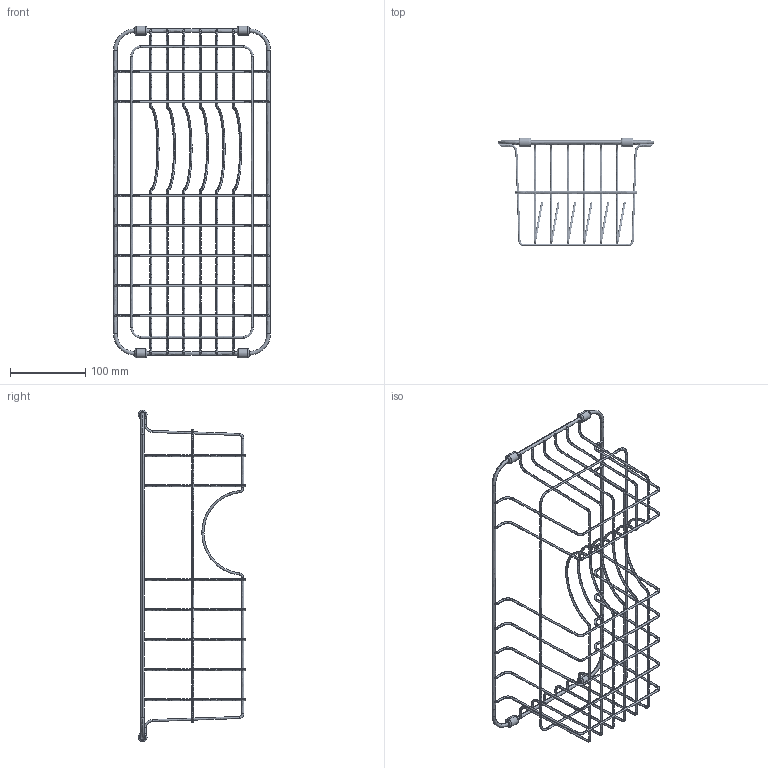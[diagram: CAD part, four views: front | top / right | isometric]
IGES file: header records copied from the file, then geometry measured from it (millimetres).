
Start section: SolidWorks IGES file using NURBS representation for surfaces
Global section: file name: D:\JÚLIO\#1# PRODUTOS\LAVA-LOUÇAS\Grelhas de lava-louças\4A33011 - Escorredor p l. louças valet 0,5 cuba\biblioteca 3D\4A33011_igs.IGS; native system: SolidWorks 2018; preprocessor: SolidWorks 2018; author: Julio; date: 180703.115419; units: millimetre
Bounding box: 208.8 x 143.8 x 442 mm (x, y, z)
Surface area: 95831.7 mm2 (no closed solid volume)
Topology: 0 solids, 0 shells, 386 faces, 6722 edges, 6708 vertices
Faces by surface type: bspline 386
